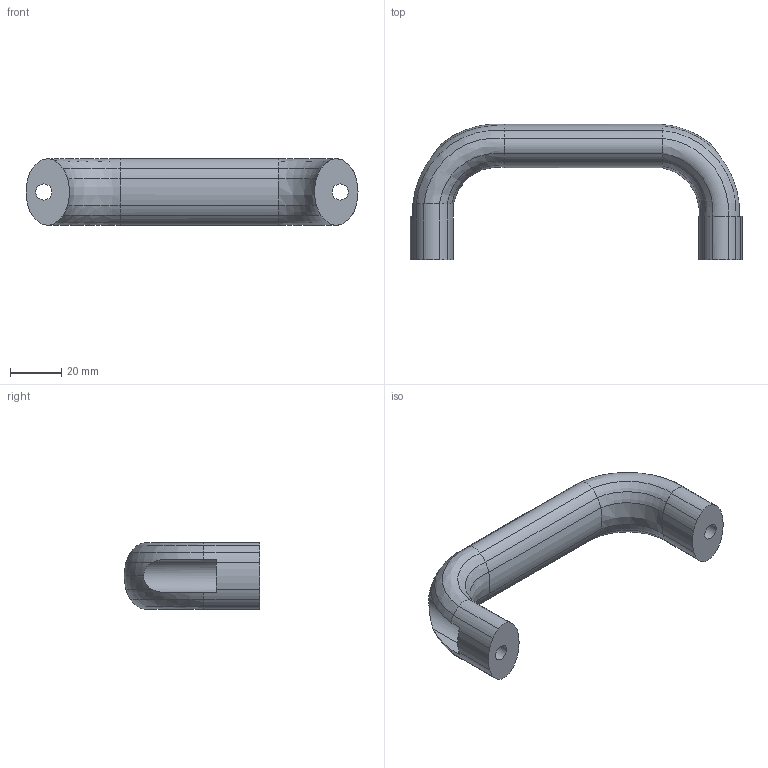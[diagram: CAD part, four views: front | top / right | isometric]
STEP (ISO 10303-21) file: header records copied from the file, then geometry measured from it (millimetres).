
FILE_DESCRIPTION( ( 'STEP AP203' ), '1' );
FILE_NAME( 'C:/3D-Trans/3D_A64-2T+071218.stp', '2007-12-18T05:03:31', ( ' ' ), ( ' ' ), 'XStep 1.0', ' ', ' ' );
FILE_SCHEMA( ( 'CONFIG_CONTROL_DESIGN' ) );
Length unit declared in the file: millimetre
Products named in the file (1): 1
Bounding box: 130 x 53.04 x 26 mm (x, y, z)
Volume: 55167.9 mm3; surface area: 14562.2 mm2
Topology: 1 solids, 1 shells, 81 faces, 199 edges, 120 vertices
Faces by surface type: cylinder 42, revolution 26, plane 13
Full cylindrical faces by diameter (mm): 6.3 x2, 11 x2
Entity records: 2694 total; most frequent: CARTESIAN_POINT 840, ORIENTED_EDGE 382, DIRECTION 372, EDGE_CURVE 191, AXIS2_PLACEMENT_3D 149, VERTEX_POINT 116, CIRCLE 93, EDGE_LOOP 89
